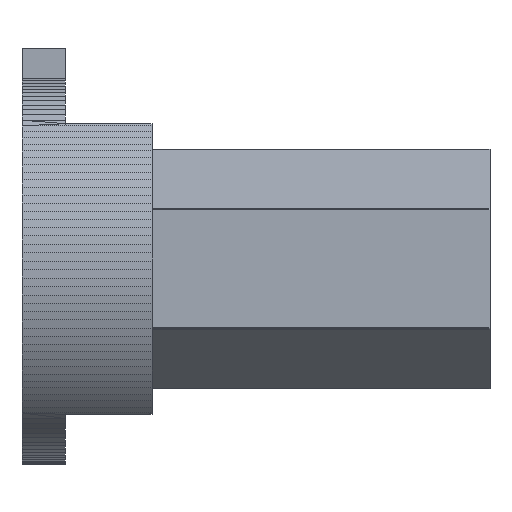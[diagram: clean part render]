
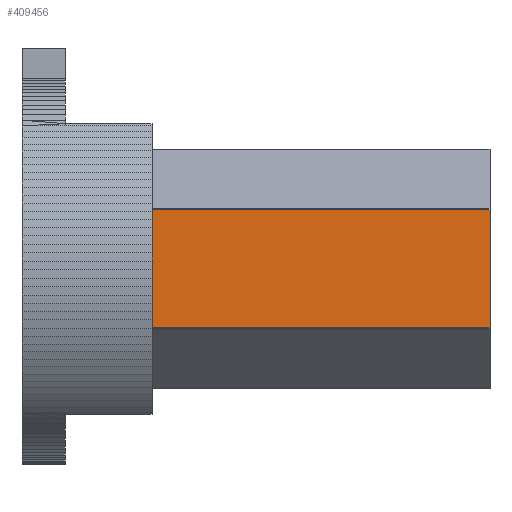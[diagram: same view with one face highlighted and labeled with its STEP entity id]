
A CAD part, left-side view. The second image highlights one B-rep face of the part: STEP entity #409456.
In plain terms, the highlighted planar face has unit normal (-1, 0, 0.002).
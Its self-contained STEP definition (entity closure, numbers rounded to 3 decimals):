
#371079 = PLANE('',#371080);
#371080 = AXIS2_PLACEMENT_3D('',#371081,#371082,#371083);
#371081 = CARTESIAN_POINT('',(1.057,-27.,-2.266));
#371082 = DIRECTION('',(0.,-1.,0.));
#371083 = DIRECTION('',(0.,-0.,-1.));
#391625 = EDGE_CURVE('',#391626,#391628,#391630,.T.);
#391626 = VERTEX_POINT('',#391627);
#391627 = CARTESIAN_POINT('',(-6.007,-7.,-3.396));
#391628 = VERTEX_POINT('',#391629);
#391629 = CARTESIAN_POINT('',(-5.993,-7.,3.419));
#391630 = SURFACE_CURVE('',#391631,(#391635,#391647),.PCURVE_S1.);
#391631 = LINE('',#391632,#391633);
#391632 = CARTESIAN_POINT('',(-6.007,-7.,-3.396));
#391633 = VECTOR('',#391634,1.);
#391634 = DIRECTION('',(0.002,0.,1.));
#391635 = PCURVE('',#391636,#391641);
#391636 = PLANE('',#391637);
#391637 = AXIS2_PLACEMENT_3D('',#391638,#391639,#391640);
#391638 = CARTESIAN_POINT('',(-6.007,-7.,-3.396));
#391639 = DIRECTION('',(0.,-1.,0.));
#391640 = DIRECTION('',(0.,-0.,-1.));
#391641 = DEFINITIONAL_REPRESENTATION('',(#391642),#391646);
#391642 = LINE('',#391643,#391644);
#391643 = CARTESIAN_POINT('',(0.,0.));
#391644 = VECTOR('',#391645,1.);
#391645 = DIRECTION('',(-1.,0.002));
#391646 = ( GEOMETRIC_REPRESENTATION_CONTEXT(2) 
PARAMETRIC_REPRESENTATION_CONTEXT() REPRESENTATION_CONTEXT('2D SPACE',''
  ) );
#391647 = PCURVE('',#391648,#391653);
#391648 = PLANE('',#391649);
#391649 = AXIS2_PLACEMENT_3D('',#391650,#391651,#391652);
#391650 = CARTESIAN_POINT('',(-6.007,-7.,-3.396));
#391651 = DIRECTION('',(-1.,0.,0.002));
#391652 = DIRECTION('',(-0.002,0.,-1.));
#391653 = DEFINITIONAL_REPRESENTATION('',(#391654),#391658);
#391654 = LINE('',#391655,#391656);
#391655 = CARTESIAN_POINT('',(0.,0.));
#391656 = VECTOR('',#391657,1.);
#391657 = DIRECTION('',(-1.,0.));
#391658 = ( GEOMETRIC_REPRESENTATION_CONTEXT(2) 
PARAMETRIC_REPRESENTATION_CONTEXT() REPRESENTATION_CONTEXT('2D SPACE',''
  ) );
#396451 = VERTEX_POINT('',#396452);
#396452 = CARTESIAN_POINT('',(-5.993,-27.,3.419));
#396466 = PLANE('',#396467);
#396467 = AXIS2_PLACEMENT_3D('',#396468,#396469,#396470);
#396468 = CARTESIAN_POINT('',(-5.976,-2.5,3.45));
#396469 = DIRECTION('',(-0.867,0.,0.498));
#396470 = DIRECTION('',(-0.498,0.,-0.867));
#396478 = EDGE_CURVE('',#396479,#396451,#396481,.T.);
#396479 = VERTEX_POINT('',#396480);
#396480 = CARTESIAN_POINT('',(-6.007,-27.,-3.396));
#396481 = SURFACE_CURVE('',#396482,(#396486,#396493),.PCURVE_S1.);
#396482 = LINE('',#396483,#396484);
#396483 = CARTESIAN_POINT('',(-6.007,-27.,-3.396));
#396484 = VECTOR('',#396485,1.);
#396485 = DIRECTION('',(0.002,0.,1.));
#396486 = PCURVE('',#371079,#396487);
#396487 = DEFINITIONAL_REPRESENTATION('',(#396488),#396492);
#396488 = LINE('',#396489,#396490);
#396489 = CARTESIAN_POINT('',(1.13,-7.063));
#396490 = VECTOR('',#396491,1.);
#396491 = DIRECTION('',(-1.,0.002));
#396492 = ( GEOMETRIC_REPRESENTATION_CONTEXT(2) 
PARAMETRIC_REPRESENTATION_CONTEXT() REPRESENTATION_CONTEXT('2D SPACE',''
  ) );
#396493 = PCURVE('',#391648,#396494);
#396494 = DEFINITIONAL_REPRESENTATION('',(#396495),#396499);
#396495 = LINE('',#396496,#396497);
#396496 = CARTESIAN_POINT('',(-0.,20.));
#396497 = VECTOR('',#396498,1.);
#396498 = DIRECTION('',(-1.,0.));
#396499 = ( GEOMETRIC_REPRESENTATION_CONTEXT(2) 
PARAMETRIC_REPRESENTATION_CONTEXT() REPRESENTATION_CONTEXT('2D SPACE',''
  ) );
#396517 = PLANE('',#396518);
#396518 = AXIS2_PLACEMENT_3D('',#396519,#396520,#396521);
#396519 = CARTESIAN_POINT('',(-5.976,-27.,-3.45));
#396520 = DIRECTION('',(-0.868,0.,-0.496));
#396521 = DIRECTION('',(0.496,0.,-0.868));
#409456 = ADVANCED_FACE('',(#409457),#391648,.T.);
#409457 = FACE_BOUND('',#409458,.T.);
#409458 = EDGE_LOOP('',(#409459,#409480,#409481,#409502));
#409459 = ORIENTED_EDGE('',*,*,#409460,.F.);
#409460 = EDGE_CURVE('',#396479,#391626,#409461,.T.);
#409461 = SURFACE_CURVE('',#409462,(#409466,#409473),.PCURVE_S1.);
#409462 = LINE('',#409463,#409464);
#409463 = CARTESIAN_POINT('',(-6.007,-27.,-3.396));
#409464 = VECTOR('',#409465,1.);
#409465 = DIRECTION('',(0.,1.,0.));
#409466 = PCURVE('',#391648,#409467);
#409467 = DEFINITIONAL_REPRESENTATION('',(#409468),#409472);
#409468 = LINE('',#409469,#409470);
#409469 = CARTESIAN_POINT('',(-0.,20.));
#409470 = VECTOR('',#409471,1.);
#409471 = DIRECTION('',(0.,-1.));
#409472 = ( GEOMETRIC_REPRESENTATION_CONTEXT(2) 
PARAMETRIC_REPRESENTATION_CONTEXT() REPRESENTATION_CONTEXT('2D SPACE',''
  ) );
#409473 = PCURVE('',#396517,#409474);
#409474 = DEFINITIONAL_REPRESENTATION('',(#409475),#409479);
#409475 = LINE('',#409476,#409477);
#409476 = CARTESIAN_POINT('',(-0.063,-0.));
#409477 = VECTOR('',#409478,1.);
#409478 = DIRECTION('',(0.,-1.));
#409479 = ( GEOMETRIC_REPRESENTATION_CONTEXT(2) 
PARAMETRIC_REPRESENTATION_CONTEXT() REPRESENTATION_CONTEXT('2D SPACE',''
  ) );
#409480 = ORIENTED_EDGE('',*,*,#396478,.T.);
#409481 = ORIENTED_EDGE('',*,*,#409482,.T.);
#409482 = EDGE_CURVE('',#396451,#391628,#409483,.T.);
#409483 = SURFACE_CURVE('',#409484,(#409488,#409495),.PCURVE_S1.);
#409484 = LINE('',#409485,#409486);
#409485 = CARTESIAN_POINT('',(-5.993,-27.,3.419));
#409486 = VECTOR('',#409487,1.);
#409487 = DIRECTION('',(0.,1.,0.));
#409488 = PCURVE('',#391648,#409489);
#409489 = DEFINITIONAL_REPRESENTATION('',(#409490),#409494);
#409490 = LINE('',#409491,#409492);
#409491 = CARTESIAN_POINT('',(-6.815,20.));
#409492 = VECTOR('',#409493,1.);
#409493 = DIRECTION('',(0.,-1.));
#409494 = ( GEOMETRIC_REPRESENTATION_CONTEXT(2) 
PARAMETRIC_REPRESENTATION_CONTEXT() REPRESENTATION_CONTEXT('2D SPACE',''
  ) );
#409495 = PCURVE('',#396466,#409496);
#409496 = DEFINITIONAL_REPRESENTATION('',(#409497),#409501);
#409497 = LINE('',#409498,#409499);
#409498 = CARTESIAN_POINT('',(0.036,24.5));
#409499 = VECTOR('',#409500,1.);
#409500 = DIRECTION('',(0.,-1.));
#409501 = ( GEOMETRIC_REPRESENTATION_CONTEXT(2) 
PARAMETRIC_REPRESENTATION_CONTEXT() REPRESENTATION_CONTEXT('2D SPACE',''
  ) );
#409502 = ORIENTED_EDGE('',*,*,#391625,.F.);
